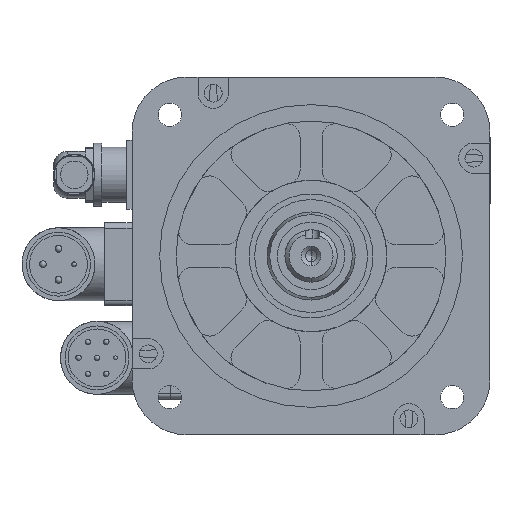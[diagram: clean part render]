
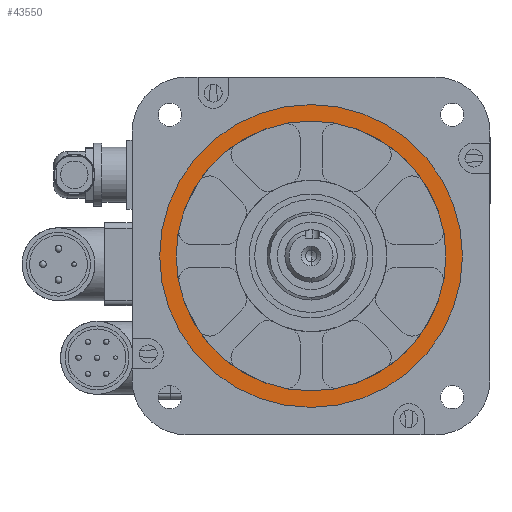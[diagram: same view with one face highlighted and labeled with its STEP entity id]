
A CAD part, left-side view. The second image highlights one B-rep face of the part: STEP entity #43550.
In plain terms, the highlighted planar face has unit normal (-1, 0, 0).
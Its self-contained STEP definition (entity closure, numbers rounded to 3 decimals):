
#218 = CIRCLE ( 'NONE', #37532, 55. ) ;
#1657 = CARTESIAN_POINT ( 'NONE',  ( -6., 0., 0. ) ) ;
#3469 = DIRECTION ( 'NONE',  ( -1., 0., 0. ) ) ;
#4549 = CARTESIAN_POINT ( 'NONE',  ( -6., 0., 0. ) ) ;
#5070 = DIRECTION ( 'NONE',  ( 0., 0., 1. ) ) ;
#5080 = VERTEX_POINT ( 'NONE', #10311 ) ;
#7969 = DIRECTION ( 'NONE',  ( 0., 0., 1. ) ) ;
#8347 = AXIS2_PLACEMENT_3D ( 'NONE', #10275, #33995, #13685 ) ;
#10275 = CARTESIAN_POINT ( 'NONE',  ( -6., 0., 0. ) ) ;
#10311 = CARTESIAN_POINT ( 'NONE',  ( -6., 0., 49. ) ) ;
#10387 = FACE_BOUND ( 'NONE', #31933, .T. ) ;
#10958 = VERTEX_POINT ( 'NONE', #30781 ) ;
#13685 = DIRECTION ( 'NONE',  ( 0., 0., 1. ) ) ;
#16358 = EDGE_CURVE ( 'NONE', #20654, #24835, #18518, .T. ) ;
#17037 = CARTESIAN_POINT ( 'NONE',  ( -6., 0., 0. ) ) ;
#18518 = CIRCLE ( 'NONE', #8347, 55. ) ;
#18956 = CARTESIAN_POINT ( 'NONE',  ( -6., 0., 0. ) ) ;
#19028 = CARTESIAN_POINT ( 'NONE',  ( -6., 0., -55. ) ) ;
#20654 = VERTEX_POINT ( 'NONE', #19028 ) ;
#21590 = EDGE_CURVE ( 'NONE', #5080, #10958, #43293, .T. ) ;
#22383 = DIRECTION ( 'NONE',  ( 0., 0., 1. ) ) ;
#23017 = CARTESIAN_POINT ( 'NONE',  ( -6., 0., 55. ) ) ;
#23720 = EDGE_LOOP ( 'NONE', ( #34697, #42706 ) ) ;
#24655 = EDGE_CURVE ( 'NONE', #24835, #20654, #218, .T. ) ;
#24768 = ORIENTED_EDGE ( 'NONE', *, *, #37472, .F. ) ;
#24835 = VERTEX_POINT ( 'NONE', #23017 ) ;
#25429 = DIRECTION ( 'NONE',  ( -1., 0., 0. ) ) ;
#26552 = AXIS2_PLACEMENT_3D ( 'NONE', #17037, #3469, #27243 ) ;
#27243 = DIRECTION ( 'NONE',  ( 0., 0., 1. ) ) ;
#27368 = FACE_OUTER_BOUND ( 'NONE', #23720, .T. ) ;
#28316 = DIRECTION ( 'NONE',  ( -1., 0., 0. ) ) ;
#30479 = PLANE ( 'NONE',  #26552 ) ;
#30781 = CARTESIAN_POINT ( 'NONE',  ( -6., 0., -49. ) ) ;
#31933 = EDGE_LOOP ( 'NONE', ( #39762, #24768 ) ) ;
#33995 = DIRECTION ( 'NONE',  ( -1., 0., 0. ) ) ;
#34697 = ORIENTED_EDGE ( 'NONE', *, *, #16358, .T. ) ;
#35429 = AXIS2_PLACEMENT_3D ( 'NONE', #18956, #42503, #22383 ) ;
#37472 = EDGE_CURVE ( 'NONE', #10958, #5080, #42537, .T. ) ;
#37532 = AXIS2_PLACEMENT_3D ( 'NONE', #4549, #28316, #7969 ) ;
#39762 = ORIENTED_EDGE ( 'NONE', *, *, #21590, .F. ) ;
#39957 = AXIS2_PLACEMENT_3D ( 'NONE', #1657, #25429, #5070 ) ;
#42503 = DIRECTION ( 'NONE',  ( -1., 0., 0. ) ) ;
#42537 = CIRCLE ( 'NONE', #35429, 49. ) ;
#42706 = ORIENTED_EDGE ( 'NONE', *, *, #24655, .T. ) ;
#43293 = CIRCLE ( 'NONE', #39957, 49. ) ;
#43550 = ADVANCED_FACE ( 'NONE', ( #10387, #27368 ), #30479, .T. ) ;
